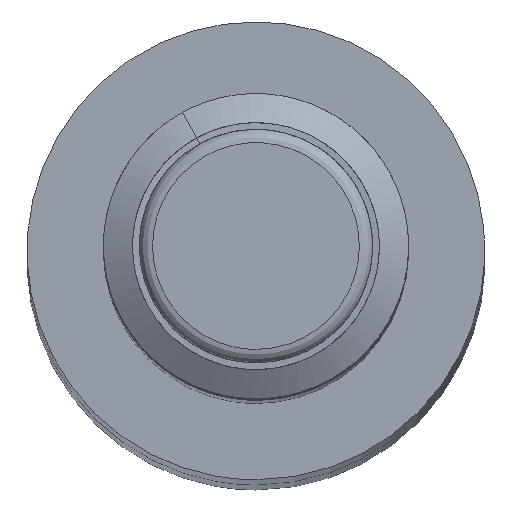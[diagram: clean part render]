
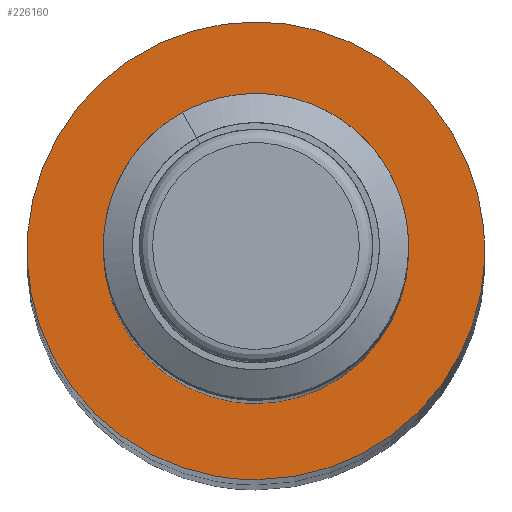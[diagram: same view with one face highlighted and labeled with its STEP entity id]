
A CAD part, top view. The second image highlights one B-rep face of the part: STEP entity #226160.
In plain terms, the highlighted free-form (B-spline) face has degree [1, 2] with [2, 9] control points.
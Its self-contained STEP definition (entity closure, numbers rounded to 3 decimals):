
#225320 = CARTESIAN_POINT ('', (0., 72.5, 77.175));
#225330 = VERTEX_POINT ('', #225320);
#225390 = CARTESIAN_POINT ('', (0., 72.5, 77.175));
#225400 = CARTESIAN_POINT ('', (4., 72.5, 77.175));
#225410 = CARTESIAN_POINT ('', (4., 76.5, 77.175));
#225420 = CARTESIAN_POINT ('', (4., 80.5, 77.175));
#225430 = CARTESIAN_POINT ('', (0., 80.5, 77.175));
#225440 = CARTESIAN_POINT ('', (-4., 80.5, 77.175));
#225450 = CARTESIAN_POINT ('', (-4., 76.5, 77.175));
#225460 = CARTESIAN_POINT ('', (-4., 72.5, 77.175));
#225470 = CARTESIAN_POINT ('', (0., 72.5, 77.175));
#225480 = (
   BOUNDED_CURVE ()
   B_SPLINE_CURVE (2, (#225390, #225400, #225410, #225420, #225430, #225440, #225450, #225460, #225470), .UNSPECIFIED., .T., .U.)
   B_SPLINE_CURVE_WITH_KNOTS ((3, 2, 2, 2, 3), (0., 0.25, 0.5, 0.75, 1.), .UNSPECIFIED.)
   CURVE ()
   GEOMETRIC_REPRESENTATION_ITEM ()
   RATIONAL_B_SPLINE_CURVE ((1., 0.707, 1., 0.707, 1., 0.707, 1., 0.707, 1.))
   REPRESENTATION_ITEM ('')
);
#225490 = EDGE_CURVE ('', #225330, #225330, #225480, .T.);
#225740 = ORIENTED_EDGE ('', *, *, #225490, .F.);
#225750 = CARTESIAN_POINT ('', (0., 70.5, 77.175));
#225760 = VERTEX_POINT ('', #225750);
#225770 = CARTESIAN_POINT ('', (0., 72.5, 77.175));
#225780 = CARTESIAN_POINT ('', (0., 70.5, 77.175));
#225790 = (
   BOUNDED_CURVE ()
   B_SPLINE_CURVE (1, (#225770, #225780), .UNSPECIFIED., .F., .U.)
   B_SPLINE_CURVE_WITH_KNOTS ((2, 2), (261., 263.), .UNSPECIFIED.)
   CURVE ()
   GEOMETRIC_REPRESENTATION_ITEM ()
   RATIONAL_B_SPLINE_CURVE ((1., 1.))
   REPRESENTATION_ITEM ('')
);
#225800 = EDGE_CURVE ('', #225330, #225760, #225790, .T.);
#225810 = ORIENTED_EDGE ('', *, *, #225800, .T.);
#225820 = CARTESIAN_POINT ('', (0., 70.5, 77.175));
#225830 = CARTESIAN_POINT ('', (6., 70.5, 77.175));
#225840 = CARTESIAN_POINT ('', (6., 76.5, 77.175));
#225850 = CARTESIAN_POINT ('', (6., 82.5, 77.175));
#225860 = CARTESIAN_POINT ('', (0., 82.5, 77.175));
#225870 = CARTESIAN_POINT ('', (-6., 82.5, 77.175));
#225880 = CARTESIAN_POINT ('', (-6., 76.5, 77.175));
#225890 = CARTESIAN_POINT ('', (-6., 70.5, 77.175));
#225900 = CARTESIAN_POINT ('', (0., 70.5, 77.175));
#225910 = (
   BOUNDED_CURVE ()
   B_SPLINE_CURVE (2, (#225820, #225830, #225840, #225850, #225860, #225870, #225880, #225890, #225900), .UNSPECIFIED., .T., .U.)
   B_SPLINE_CURVE_WITH_KNOTS ((3, 2, 2, 2, 3), (0., 0.25, 0.5, 0.75, 1.), .UNSPECIFIED.)
   CURVE ()
   GEOMETRIC_REPRESENTATION_ITEM ()
   RATIONAL_B_SPLINE_CURVE ((1., 0.707, 1., 0.707, 1., 0.707, 1., 0.707, 1.))
   REPRESENTATION_ITEM ('')
);
#225920 = EDGE_CURVE ('', #225760, #225760, #225910, .T.);
#225930 = ORIENTED_EDGE ('', *, *, #225920, .T.);
#225940 = ORIENTED_EDGE ('', *, *, #225800, .F.);
#225950 = EDGE_LOOP ('', (#225740, #225810, #225930, #225940));
#225960 = FACE_OUTER_BOUND ('', #225950, .T.);
#225970 = CARTESIAN_POINT ('', (0., 72.5, 77.175));
#225980 = CARTESIAN_POINT ('', (4., 72.5, 77.175));
#225990 = CARTESIAN_POINT ('', (4., 76.5, 77.175));
#226000 = CARTESIAN_POINT ('', (4., 80.5, 77.175));
#226010 = CARTESIAN_POINT ('', (0., 80.5, 77.175));
#226020 = CARTESIAN_POINT ('', (-4., 80.5, 77.175));
#226030 = CARTESIAN_POINT ('', (-4., 76.5, 77.175));
#226040 = CARTESIAN_POINT ('', (-4., 72.5, 77.175));
#226050 = CARTESIAN_POINT ('', (0., 72.5, 77.175));
#226060 = CARTESIAN_POINT ('', (0., 70.5, 77.175));
#226070 = CARTESIAN_POINT ('', (6., 70.5, 77.175));
#226080 = CARTESIAN_POINT ('', (6., 76.5, 77.175));
#226090 = CARTESIAN_POINT ('', (6., 82.5, 77.175));
#226100 = CARTESIAN_POINT ('', (0., 82.5, 77.175));
#226110 = CARTESIAN_POINT ('', (-6., 82.5, 77.175));
#226120 = CARTESIAN_POINT ('', (-6., 76.5, 77.175));
#226130 = CARTESIAN_POINT ('', (-6., 70.5, 77.175));
#226140 = CARTESIAN_POINT ('', (0., 70.5, 77.175));
#226150 = (
   BOUNDED_SURFACE ()
   B_SPLINE_SURFACE (1, 2, ((#225970, #225980, #225990, #226000, #226010, #226020, #226030, #226040, #226050), (#226060, #226070, #226080, #226090, #226100, #226110, #226120, #226130, #226140)), .UNSPECIFIED., .F., .T., .U.)
   B_SPLINE_SURFACE_WITH_KNOTS ((2, 2), (3, 2, 2, 2, 3), (261., 263.), (0., 0.25, 0.5, 0.75, 1.), .UNSPECIFIED.)
   SURFACE ()
   GEOMETRIC_REPRESENTATION_ITEM ()
   RATIONAL_B_SPLINE_SURFACE (((1., 0.707, 1., 0.707, 1., 0.707, 1., 0.707, 1.), (1., 0.707, 1., 0.707, 1., 0.707, 1., 0.707, 1.)))
   REPRESENTATION_ITEM ('')
);
#226160 = ADVANCED_FACE ('', (#225960), #226150, .T.);
